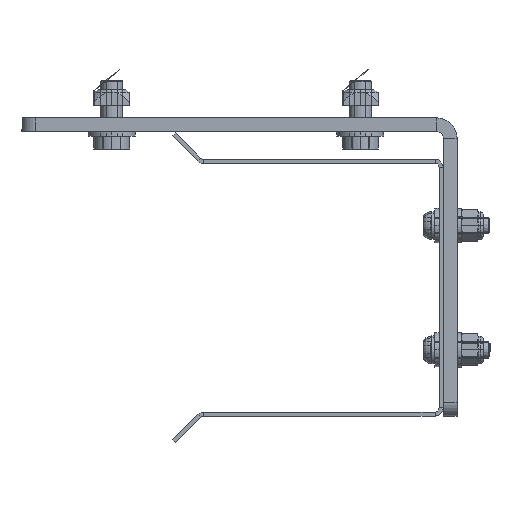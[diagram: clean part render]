
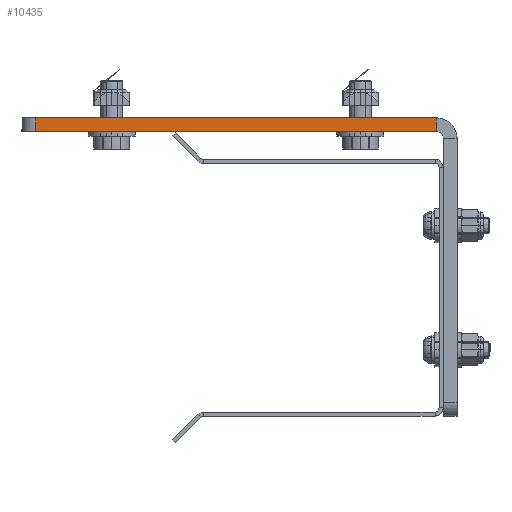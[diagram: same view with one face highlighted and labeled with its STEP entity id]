
A CAD part, left-side view. The second image highlights one B-rep face of the part: STEP entity #10435.
In plain terms, the highlighted planar face has unit normal (-1, 0, 0) as drawn and (0, 0, -1) by its records, which use the part's own axes.
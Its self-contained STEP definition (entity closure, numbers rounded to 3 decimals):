
#98 = CARTESIAN_POINT ( 'NONE',  ( -49., -78.75, -25. ) ) ;
#396 = EDGE_CURVE ( 'NONE', #5251, #6060, #9363, .T. ) ;
#1110 = CARTESIAN_POINT ( 'NONE',  ( -54., -71.25, -25. ) ) ;
#1380 = VERTEX_POINT ( 'NONE', #6611 ) ;
#1545 = AXIS2_PLACEMENT_3D ( 'NONE', #3256, #3961, #3152 ) ;
#1902 = CARTESIAN_POINT ( 'NONE',  ( -54., -78.75, -25. ) ) ;
#2089 = ORIENTED_EDGE ( 'NONE', *, *, #8447, .F. ) ;
#2259 = VECTOR ( 'NONE', #4286, 1000. ) ;
#2265 = CARTESIAN_POINT ( 'NONE',  ( -49., -71.25, -25. ) ) ;
#2743 = DIRECTION ( 'NONE',  ( 0., 1., 0. ) ) ;
#3121 = PLANE ( 'NONE',  #1545 ) ;
#3140 = CARTESIAN_POINT ( 'NONE',  ( -49., 73.75, -25. ) ) ;
#3152 = DIRECTION ( 'NONE',  ( 1., 0., 0. ) ) ;
#3256 = CARTESIAN_POINT ( 'NONE',  ( -46.5, -71.25, -25. ) ) ;
#3608 = ORIENTED_EDGE ( 'NONE', *, *, #5452, .T. ) ;
#3636 = EDGE_CURVE ( 'NONE', #6060, #1380, #3899, .T. ) ;
#3899 = LINE ( 'NONE', #3140, #6576 ) ;
#3961 = DIRECTION ( 'NONE',  ( 0., 0., 1. ) ) ;
#4286 = DIRECTION ( 'NONE',  ( 0., 1., 0. ) ) ;
#4561 = EDGE_LOOP ( 'NONE', ( #8660, #11067, #2089, #3608 ) ) ;
#4582 = FACE_OUTER_BOUND ( 'NONE', #4561, .T. ) ;
#4895 = VERTEX_POINT ( 'NONE', #5859 ) ;
#5251 = VERTEX_POINT ( 'NONE', #1110 ) ;
#5452 = EDGE_CURVE ( 'NONE', #4895, #5251, #6259, .T. ) ;
#5859 = CARTESIAN_POINT ( 'NONE',  ( -49., -71.25, -25. ) ) ;
#6018 = LINE ( 'NONE', #98, #2259 ) ;
#6060 = VERTEX_POINT ( 'NONE', #6182 ) ;
#6182 = CARTESIAN_POINT ( 'NONE',  ( -54., 73.75, -25. ) ) ;
#6259 = LINE ( 'NONE', #2265, #10306 ) ;
#6576 = VECTOR ( 'NONE', #6606, 1000. ) ;
#6596 = DIRECTION ( 'NONE',  ( -1., 0., 0. ) ) ;
#6606 = DIRECTION ( 'NONE',  ( 1., 0., 0. ) ) ;
#6611 = CARTESIAN_POINT ( 'NONE',  ( -49., 73.75, -25. ) ) ;
#7072 = VECTOR ( 'NONE', #2743, 1000. ) ;
#8447 = EDGE_CURVE ( 'NONE', #4895, #1380, #6018, .T. ) ;
#8660 = ORIENTED_EDGE ( 'NONE', *, *, #396, .T. ) ;
#9363 = LINE ( 'NONE', #1902, #7072 ) ;
#10306 = VECTOR ( 'NONE', #6596, 1000. ) ;
#10435 = ADVANCED_FACE ( 'NONE', ( #4582 ), #3121, .F. ) ;
#11067 = ORIENTED_EDGE ( 'NONE', *, *, #3636, .T. ) ;
